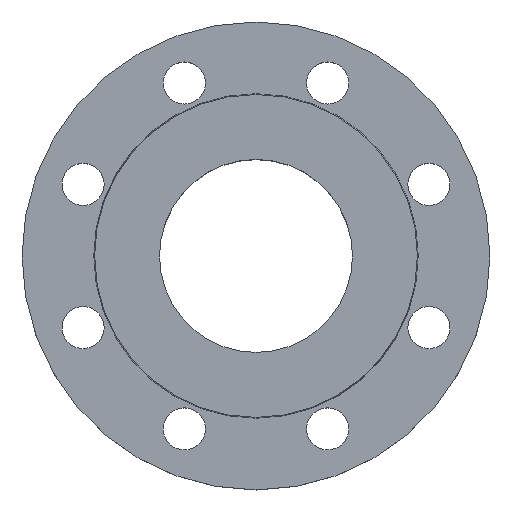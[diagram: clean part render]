
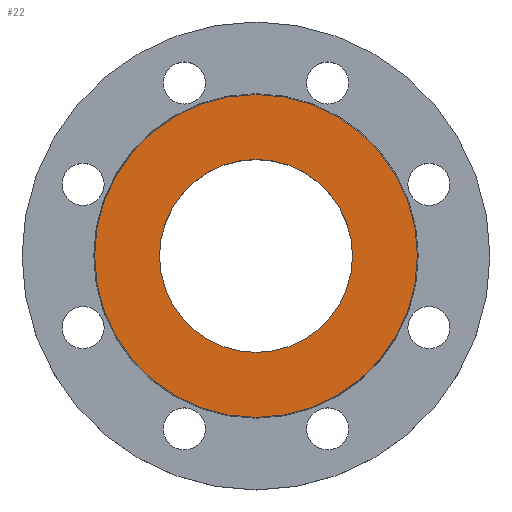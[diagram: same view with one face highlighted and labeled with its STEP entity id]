
A CAD part, top view. The second image highlights one B-rep face of the part: STEP entity #22.
In plain terms, the highlighted planar face has unit normal (0, 0, 1).
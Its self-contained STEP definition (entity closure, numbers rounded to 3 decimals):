
#19 = EDGE_CURVE ( 'NONE', #776, #766, #362, .T. ) ;
#22 = ADVANCED_FACE ( 'NONE', ( #850, #851 ), #852, .T. ) ;
#74 = EDGE_CURVE ( 'NONE', #788, #770, #308, .T. ) ;
#225 = CARTESIAN_POINT ( 'NONE',  ( 41.25, 0., 0. ) ) ;
#232 = CARTESIAN_POINT ( 'NONE',  ( 69., 0., 0. ) ) ;
#238 = CARTESIAN_POINT ( 'NONE',  ( -41.25, 0., 0. ) ) ;
#244 = CARTESIAN_POINT ( 'NONE',  ( -69., 0., 0. ) ) ;
#308 = CIRCLE ( 'NONE', #475, 41.25 ) ;
#313 = DIRECTION ( 'NONE',  ( -1., 0., 0. ) ) ;
#314 = DIRECTION ( 'NONE',  ( 0., 0., -1. ) ) ;
#315 = CARTESIAN_POINT ( 'NONE',  ( 0., 0., 0. ) ) ;
#359 = AXIS2_PLACEMENT_3D ( 'NONE', #432, #431, #429 ) ;
#362 = CIRCLE ( 'NONE', #460, 69. ) ;
#368 = CIRCLE ( 'NONE', #359, 41.25 ) ;
#429 = DIRECTION ( 'NONE',  ( -1., 0., 0. ) ) ;
#431 = DIRECTION ( 'NONE',  ( 0., 0., -1. ) ) ;
#432 = CARTESIAN_POINT ( 'NONE',  ( 0., 0., 0. ) ) ;
#460 = AXIS2_PLACEMENT_3D ( 'NONE', #842, #843, #844 ) ;
#475 = AXIS2_PLACEMENT_3D ( 'NONE', #627, #633, #629 ) ;
#502 = EDGE_CURVE ( 'NONE', #770, #788, #368, .T. ) ;
#627 = CARTESIAN_POINT ( 'NONE',  ( 0., 0., 0. ) ) ;
#629 = DIRECTION ( 'NONE',  ( -1., 0., 0. ) ) ;
#633 = DIRECTION ( 'NONE',  ( 0., 0., -1. ) ) ;
#651 = CIRCLE ( 'NONE', #654, 69. ) ;
#654 = AXIS2_PLACEMENT_3D ( 'NONE', #315, #314, #313 ) ;
#677 = EDGE_CURVE ( 'NONE', #766, #776, #651, .T. ) ;
#686 = EDGE_LOOP ( 'NONE', ( #1082, #1083 ) ) ;
#766 = VERTEX_POINT ( 'NONE', #244 ) ;
#770 = VERTEX_POINT ( 'NONE', #238 ) ;
#776 = VERTEX_POINT ( 'NONE', #232 ) ;
#788 = VERTEX_POINT ( 'NONE', #225 ) ;
#842 = CARTESIAN_POINT ( 'NONE',  ( 0., 0., 0. ) ) ;
#843 = DIRECTION ( 'NONE',  ( 0., 0., -1. ) ) ;
#844 = DIRECTION ( 'NONE',  ( -1., 0., 0. ) ) ;
#850 = FACE_BOUND ( 'NONE', #1116, .T. ) ;
#851 = FACE_OUTER_BOUND ( 'NONE', #686, .T. ) ;
#852 = PLANE ( 'NONE',  #868 ) ;
#854 = CARTESIAN_POINT ( 'NONE',  ( 0., 0., 0. ) ) ;
#855 = DIRECTION ( 'NONE',  ( 0., 0., 1. ) ) ;
#856 = DIRECTION ( 'NONE',  ( 1., 0., 0. ) ) ;
#868 = AXIS2_PLACEMENT_3D ( 'NONE', #854, #855, #856 ) ;
#1080 = ORIENTED_EDGE ( 'NONE', *, *, #502, .T. ) ;
#1081 = ORIENTED_EDGE ( 'NONE', *, *, #74, .T. ) ;
#1082 = ORIENTED_EDGE ( 'NONE', *, *, #677, .F. ) ;
#1083 = ORIENTED_EDGE ( 'NONE', *, *, #19, .F. ) ;
#1116 = EDGE_LOOP ( 'NONE', ( #1080, #1081 ) ) ;
